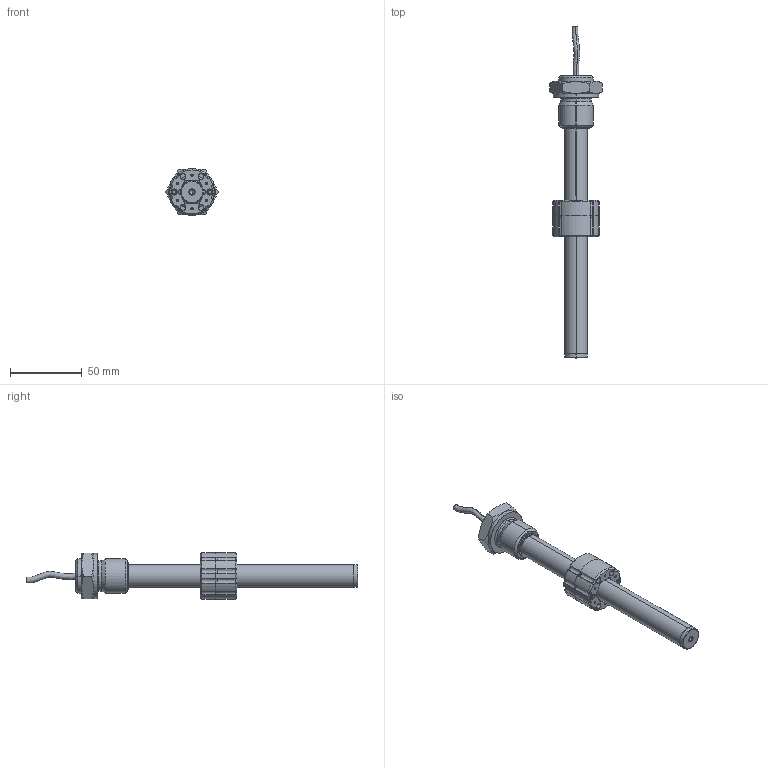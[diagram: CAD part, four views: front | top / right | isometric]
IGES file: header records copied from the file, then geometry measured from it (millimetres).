
Start section: SolidWorks IGES file using analytic representation for surfaces
Global section: file name: K:\Disegni Catalogo\Posizione\PMI12\PMI-12-F-0100-X V2\3D\Solidworks 2010\PMI-12-F-0100-M V2\PMI-12-F-0100-M V2.IGS; native system: SolidWorks 2010; preprocessor: SolidWorks 2010; author: loda-w1; date: 101110.152407; units: millimetre
Bounding box: 36.95 x 231.7 x 32.8 mm (x, y, z)
Surface area: 35982.1 mm2 (no closed solid volume)
Topology: 0 solids, 0 shells, 904 faces, 8790 edges, 8778 vertices
Faces by surface type: revolution 800, bspline 104
